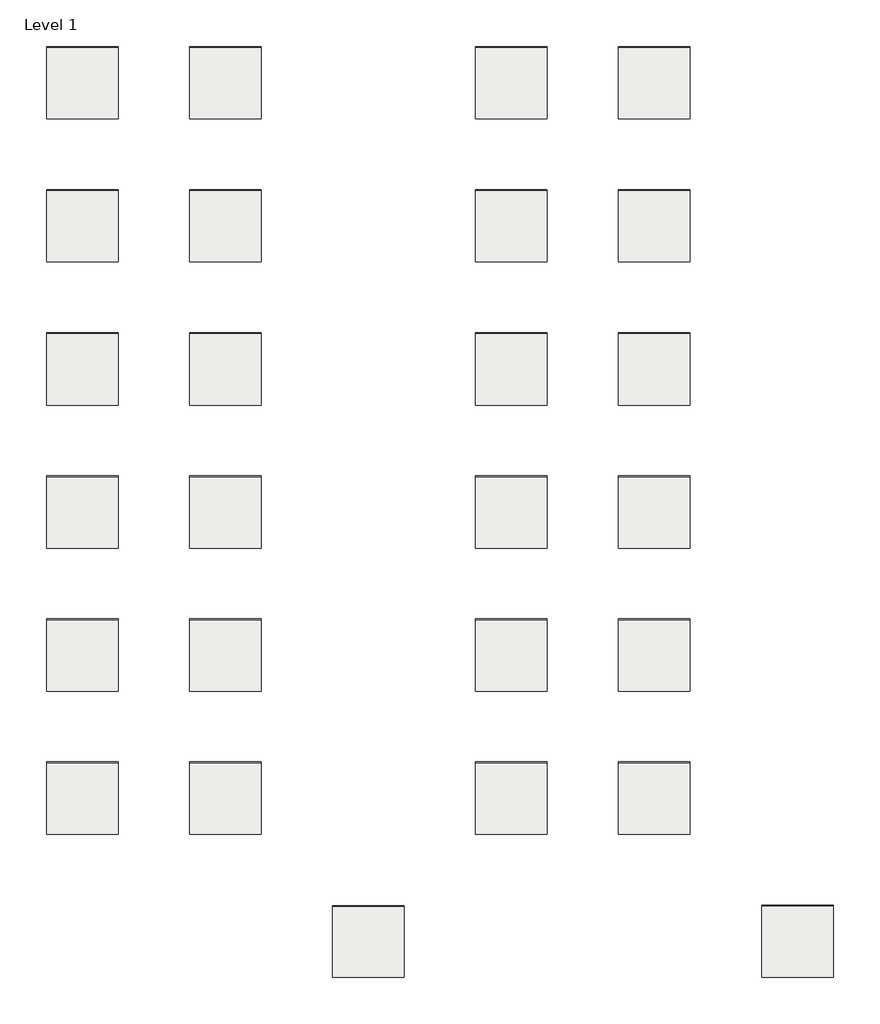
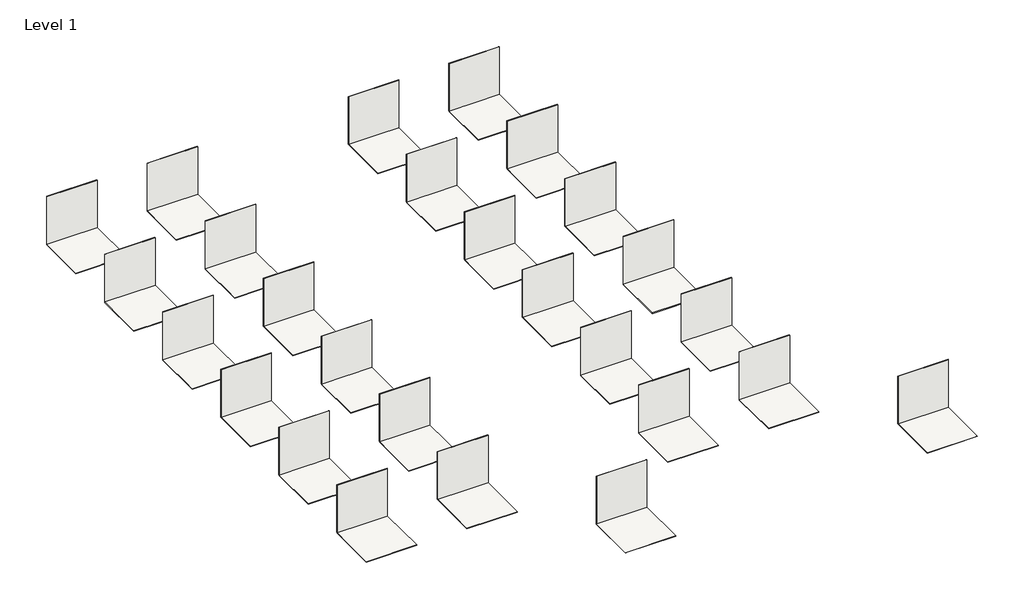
# One storey: 52 coverings.
"""IFC4 building model written with IfcOpenShell, lengths in millimetres."""

from ifc_helpers import new_model, si_unit, frame, origin, origin_with_axes, place, context, project, spatial, polyline, outline, extrude, element, save

model = new_model("IFC4")

# Units and contexts
model_context = context("Model", 3, world=origin())
ifc_project = project(units=[si_unit("LENGTHUNIT", "METRE", prefix="MILLI")], contexts=[model_context])

# Site, building, storey
site = spatial("IfcSite", under=ifc_project)
building = spatial("IfcBuilding", under=site)
storey = spatial("IfcBuildingStorey", under=building, Name="Level 1", Elevation=0.0)

# Coverings
placement = place(None, origin())
element("IfcCovering", 1, ObjectType="REVIGRÉS-RULE-BASE-19,6x118,6-SILK-ALLOY", at=placement, inside=storey, context=model_context, shape_type="SweptSolid", body=[
    extrude(outline(polyline([(1105.3469355, 19020.3776243), (105.3469355, 19020.3776243), (105.3469355, 19030.8776243), (1105.3469355, 19030.8776243), (1105.3469355, 19020.3776243)])), origin_with_axes(), (0.0, 0.0, 1.0), 1000.0),
])
element("IfcCovering", 2, ObjectType="REVIGRÉS-RULE-BASE-19,6x118,6-SILK-ALLOY", at=placement, inside=storey, context=model_context, shape_type="SweptSolid", body=[
    extrude(outline(polyline([(1105.3469355, 18020.3776243), (105.3469355, 18020.3776243), (105.3469355, 19020.3776243), (1105.3469355, 19020.3776243), (1105.3469355, 18020.3776243)])), frame((0.0, 0.0, -10.5), z_axis=(0.0, 0.0, 1.0), x_axis=(1.0, 0.0, 0.0)), (0.0, 0.0, 1.0), 10.5),
])
element("IfcCovering", 3, ObjectType="REVIGRÉS-RULE-BASE-19,6x118,6-SILK-SMOG", at=placement, inside=storey, context=model_context, shape_type="SweptSolid", body=[
    extrude(outline(polyline([(7105.3469355, 19020.3776243), (6105.3469355, 19020.3776243), (6105.3469355, 19030.8776243), (7105.3469355, 19030.8776243), (7105.3469355, 19020.3776243)])), origin_with_axes(), (0.0, 0.0, 1.0), 1000.0),
])
element("IfcCovering", 4, ObjectType="REVIGRÉS-RULE-BASE-19,6x118,6-SILK-SMOG", at=placement, inside=storey, context=model_context, shape_type="SweptSolid", body=[
    extrude(outline(polyline([(7105.3469355, 18020.3776243), (6105.3469355, 18020.3776243), (6105.3469355, 19020.3776243), (7105.3469355, 19020.3776243), (7105.3469355, 18020.3776243)])), frame((0.0, 0.0, -10.5), z_axis=(0.0, 0.0, 1.0), x_axis=(1.0, 0.0, 0.0)), (0.0, 0.0, 1.0), 10.5),
])
element("IfcCovering", 5, ObjectType="REVIGRÉS-RULE-BASE-19,6x118,6-SOFT GRIP-ALLOY", at=placement, inside=storey, context=model_context, shape_type="SweptSolid", body=[
    extrude(outline(polyline([(3105.3469355, 19020.3776243), (2105.3469355, 19020.3776243), (2105.3469355, 19030.8776243), (3105.3469355, 19030.8776243), (3105.3469355, 19020.3776243)])), origin_with_axes(), (0.0, 0.0, 1.0), 1000.0),
])
element("IfcCovering", 6, ObjectType="REVIGRÉS-RULE-BASE-19,6x118,6-SOFT GRIP-ALLOY", at=placement, inside=storey, context=model_context, shape_type="SweptSolid", body=[
    extrude(outline(polyline([(3105.3469355, 18020.3776243), (2105.3469355, 18020.3776243), (2105.3469355, 19020.3776243), (3105.3469355, 19020.3776243), (3105.3469355, 18020.3776243)])), frame((0.0, 0.0, -10.5), z_axis=(0.0, 0.0, 1.0), x_axis=(1.0, 0.0, 0.0)), (0.0, 0.0, 1.0), 10.5),
])
element("IfcCovering", 7, ObjectType="REVIGRÉS-RULE-BASE-19,6x118,6-SOFT GRIP-SMOG", at=placement, inside=storey, context=model_context, shape_type="SweptSolid", body=[
    extrude(outline(polyline([(9105.3469355, 19020.3776243), (8105.3469355, 19020.3776243), (8105.3469355, 19030.8776243), (9105.3469355, 19030.8776243), (9105.3469355, 19020.3776243)])), origin_with_axes(), (0.0, 0.0, 1.0), 1000.0),
])
element("IfcCovering", 8, ObjectType="REVIGRÉS-RULE-BASE-19,6x118,6-SOFT GRIP-SMOG", at=placement, inside=storey, context=model_context, shape_type="SweptSolid", body=[
    extrude(outline(polyline([(9105.3469355, 18020.3776243), (8105.3469355, 18020.3776243), (8105.3469355, 19020.3776243), (9105.3469355, 19020.3776243), (9105.3469355, 18020.3776243)])), frame((0.0, 0.0, -10.5), z_axis=(0.0, 0.0, 1.0), x_axis=(1.0, 0.0, 0.0)), (0.0, 0.0, 1.0), 10.5),
])
element("IfcCovering", 9, ObjectType="REVIGRÉS-RULE-BASE-19,6x178-SILK-ALLOY", at=placement, inside=storey, context=model_context, shape_type="SweptSolid", body=[
    extrude(outline(polyline([(1105.3469355, 17020.3776243), (105.3469355, 17020.3776243), (105.3469355, 17031.5776243), (1105.3469355, 17031.5776243), (1105.3469355, 17020.3776243)])), origin_with_axes(), (0.0, 0.0, 1.0), 1000.0),
])
element("IfcCovering", 10, ObjectType="REVIGRÉS-RULE-BASE-19,6x178-SILK-ALLOY", at=placement, inside=storey, context=model_context, shape_type="SweptSolid", body=[
    extrude(outline(polyline([(1105.3469355, 16020.3776243), (105.3469355, 16020.3776243), (105.3469355, 17020.3776243), (1105.3469355, 17020.3776243), (1105.3469355, 16020.3776243)])), frame((0.0, 0.0, -11.2), z_axis=(0.0, 0.0, 1.0), x_axis=(1.0, 0.0, 0.0)), (0.0, 0.0, 1.0), 11.2),
])
element("IfcCovering", 11, ObjectType="REVIGRÉS-RULE-BASE-19,6x178-SILK-SMOG", at=placement, inside=storey, context=model_context, shape_type="SweptSolid", body=[
    extrude(outline(polyline([(7105.3469355, 17020.3776243), (6105.3469355, 17020.3776243), (6105.3469355, 17031.5776243), (7105.3469355, 17031.5776243), (7105.3469355, 17020.3776243)])), origin_with_axes(), (0.0, 0.0, 1.0), 1000.0),
])
element("IfcCovering", 12, ObjectType="REVIGRÉS-RULE-BASE-19,6x178-SILK-SMOG", at=placement, inside=storey, context=model_context, shape_type="SweptSolid", body=[
    extrude(outline(polyline([(7105.3469355, 16020.3776243), (6105.3469355, 16020.3776243), (6105.3469355, 17020.3776243), (7105.3469355, 17020.3776243), (7105.3469355, 16020.3776243)])), frame((0.0, 0.0, -11.2), z_axis=(0.0, 0.0, 1.0), x_axis=(1.0, 0.0, 0.0)), (0.0, 0.0, 1.0), 11.2),
])
element("IfcCovering", 13, ObjectType="REVIGRÉS-RULE-BASE-19,6x178-SOFT GRIP-ALLOY", at=placement, inside=storey, context=model_context, shape_type="SweptSolid", body=[
    extrude(outline(polyline([(3105.3469355, 17020.3776243), (2105.3469355, 17020.3776243), (2105.3469355, 17031.5776243), (3105.3469355, 17031.5776243), (3105.3469355, 17020.3776243)])), origin_with_axes(), (0.0, 0.0, 1.0), 1000.0),
])
element("IfcCovering", 14, ObjectType="REVIGRÉS-RULE-BASE-19,6x178-SOFT GRIP-ALLOY", at=placement, inside=storey, context=model_context, shape_type="SweptSolid", body=[
    extrude(outline(polyline([(3105.3469355, 16020.3776243), (2105.3469355, 16020.3776243), (2105.3469355, 17020.3776243), (3105.3469355, 17020.3776243), (3105.3469355, 16020.3776243)])), frame((0.0, 0.0, -11.2), z_axis=(0.0, 0.0, 1.0), x_axis=(1.0, 0.0, 0.0)), (0.0, 0.0, 1.0), 11.2),
])
element("IfcCovering", 15, ObjectType="REVIGRÉS-RULE-BASE-19,6x178-SOFT GRIP-SMOG", at=placement, inside=storey, context=model_context, shape_type="SweptSolid", body=[
    extrude(outline(polyline([(9105.3469355, 17020.3776243), (8105.3469355, 17020.3776243), (8105.3469355, 17031.5776243), (9105.3469355, 17031.5776243), (9105.3469355, 17020.3776243)])), origin_with_axes(), (0.0, 0.0, 1.0), 1000.0),
])
element("IfcCovering", 16, ObjectType="REVIGRÉS-RULE-BASE-19,6x178-SOFT GRIP-SMOG", at=placement, inside=storey, context=model_context, shape_type="SweptSolid", body=[
    extrude(outline(polyline([(9105.3469355, 16020.3776243), (8105.3469355, 16020.3776243), (8105.3469355, 17020.3776243), (9105.3469355, 17020.3776243), (9105.3469355, 16020.3776243)])), frame((0.0, 0.0, -11.2), z_axis=(0.0, 0.0, 1.0), x_axis=(1.0, 0.0, 0.0)), (0.0, 0.0, 1.0), 11.2),
])
element("IfcCovering", 17, ObjectType="REVIGRÉS-RULE-BASE-29,5x118,6-SILK-ALLOY", at=placement, inside=storey, context=model_context, shape_type="SweptSolid", body=[
    extrude(outline(polyline([(1105.3469355, 15020.3776243), (105.3469355, 15020.3776243), (105.3469355, 15030.8776243), (1105.3469355, 15030.8776243), (1105.3469355, 15020.3776243)])), origin_with_axes(), (0.0, 0.0, 1.0), 1000.0),
])
element("IfcCovering", 18, ObjectType="REVIGRÉS-RULE-BASE-29,5x118,6-SILK-ALLOY", at=placement, inside=storey, context=model_context, shape_type="SweptSolid", body=[
    extrude(outline(polyline([(1105.3469355, 14020.3776243), (105.3469355, 14020.3776243), (105.3469355, 15020.3776243), (1105.3469355, 15020.3776243), (1105.3469355, 14020.3776243)])), frame((0.0, 0.0, -10.5), z_axis=(0.0, 0.0, 1.0), x_axis=(1.0, 0.0, 0.0)), (0.0, 0.0, 1.0), 10.5),
])
element("IfcCovering", 19, ObjectType="REVIGRÉS-RULE-BASE-29,5x118,6-SOFT GRIP-ALLOY", at=placement, inside=storey, context=model_context, shape_type="SweptSolid", body=[
    extrude(outline(polyline([(3105.3469355, 15020.3776243), (2105.3469355, 15020.3776243), (2105.3469355, 15030.8776243), (3105.3469355, 15030.8776243), (3105.3469355, 15020.3776243)])), origin_with_axes(), (0.0, 0.0, 1.0), 1000.0),
])
element("IfcCovering", 20, ObjectType="REVIGRÉS-RULE-BASE-29,5x118,6-SOFT GRIP-ALLOY", at=placement, inside=storey, context=model_context, shape_type="SweptSolid", body=[
    extrude(outline(polyline([(3105.3469355, 14020.3776243), (2105.3469355, 14020.3776243), (2105.3469355, 15020.3776243), (3105.3469355, 15020.3776243), (3105.3469355, 14020.3776243)])), frame((0.0, 0.0, -10.5), z_axis=(0.0, 0.0, 1.0), x_axis=(1.0, 0.0, 0.0)), (0.0, 0.0, 1.0), 10.5),
])
element("IfcCovering", 21, ObjectType="REVIGRÉS-RULE-BASE-29,5x178-SILK-ALLOY", at=placement, inside=storey, context=model_context, shape_type="SweptSolid", body=[
    extrude(outline(polyline([(1105.3469355, 13020.3776243), (105.3469355, 13020.3776243), (105.3469355, 13031.5776243), (1105.3469355, 13031.5776243), (1105.3469355, 13020.3776243)])), origin_with_axes(), (0.0, 0.0, 1.0), 1000.0),
])
element("IfcCovering", 22, ObjectType="REVIGRÉS-RULE-BASE-29,5x178-SILK-ALLOY", at=placement, inside=storey, context=model_context, shape_type="SweptSolid", body=[
    extrude(outline(polyline([(1105.3469355, 12020.3776243), (105.3469355, 12020.3776243), (105.3469355, 13020.3776243), (1105.3469355, 13020.3776243), (1105.3469355, 12020.3776243)])), frame((0.0, 0.0, -11.2), z_axis=(0.0, 0.0, 1.0), x_axis=(1.0, 0.0, 0.0)), (0.0, 0.0, 1.0), 11.2),
])
element("IfcCovering", 23, ObjectType="REVIGRÉS-RULE-BASE-29,5x178-SOFT GRIP-ALLOY", at=placement, inside=storey, context=model_context, shape_type="SweptSolid", body=[
    extrude(outline(polyline([(3105.3469355, 13020.3776243), (2105.3469355, 13020.3776243), (2105.3469355, 13031.5776243), (3105.3469355, 13031.5776243), (3105.3469355, 13020.3776243)])), origin_with_axes(), (0.0, 0.0, 1.0), 1000.0),
])
element("IfcCovering", 24, ObjectType="REVIGRÉS-RULE-BASE-29,5x178-SOFT GRIP-ALLOY", at=placement, inside=storey, context=model_context, shape_type="SweptSolid", body=[
    extrude(outline(polyline([(3105.3469355, 12020.3776243), (2105.3469355, 12020.3776243), (2105.3469355, 13020.3776243), (3105.3469355, 13020.3776243), (3105.3469355, 12020.3776243)])), frame((0.0, 0.0, -11.2), z_axis=(0.0, 0.0, 1.0), x_axis=(1.0, 0.0, 0.0)), (0.0, 0.0, 1.0), 11.2),
])
element("IfcCovering", 25, ObjectType="REVIGRÉS-RULE-BASE-59,2x118,6-SILK-ALLOY", at=placement, inside=storey, context=model_context, shape_type="SweptSolid", body=[
    extrude(outline(polyline([(1105.3469355, 11020.3776243), (105.3469355, 11020.3776243), (105.3469355, 11030.8776243), (1105.3469355, 11030.8776243), (1105.3469355, 11020.3776243)])), origin_with_axes(), (0.0, 0.0, 1.0), 1000.0),
])
element("IfcCovering", 26, ObjectType="REVIGRÉS-RULE-BASE-59,2x118,6-SILK-ALLOY", at=placement, inside=storey, context=model_context, shape_type="SweptSolid", body=[
    extrude(outline(polyline([(1105.3469355, 10020.3776243), (105.3469355, 10020.3776243), (105.3469355, 11020.3776243), (1105.3469355, 11020.3776243), (1105.3469355, 10020.3776243)])), frame((0.0, 0.0, -10.5), z_axis=(0.0, 0.0, 1.0), x_axis=(1.0, 0.0, 0.0)), (0.0, 0.0, 1.0), 10.5),
])
element("IfcCovering", 27, ObjectType="REVIGRÉS-RULE-BASE-59,2x118,6-SOFT GRIP-ALLOY", at=placement, inside=storey, context=model_context, shape_type="SweptSolid", body=[
    extrude(outline(polyline([(3105.3469355, 11020.3776243), (2105.3469355, 11020.3776243), (2105.3469355, 11030.8776243), (3105.3469355, 11030.8776243), (3105.3469355, 11020.3776243)])), origin_with_axes(), (0.0, 0.0, 1.0), 1000.0),
])
element("IfcCovering", 28, ObjectType="REVIGRÉS-RULE-BASE-59,2x118,6-SOFT GRIP-ALLOY", at=placement, inside=storey, context=model_context, shape_type="SweptSolid", body=[
    extrude(outline(polyline([(3105.3469355, 10020.3776243), (2105.3469355, 10020.3776243), (2105.3469355, 11020.3776243), (3105.3469355, 11020.3776243), (3105.3469355, 10020.3776243)])), frame((0.0, 0.0, -10.5), z_axis=(0.0, 0.0, 1.0), x_axis=(1.0, 0.0, 0.0)), (0.0, 0.0, 1.0), 10.5),
])
element("IfcCovering", 29, ObjectType="REVIGRÉS-RULE-BASE-59,2x178-SILK-ALLOY", at=placement, inside=storey, context=model_context, shape_type="SweptSolid", body=[
    extrude(outline(polyline([(1105.3469355, 9020.3776243), (105.3469355, 9020.3776243), (105.3469355, 9031.5776243), (1105.3469355, 9031.5776243), (1105.3469355, 9020.3776243)])), origin_with_axes(), (0.0, 0.0, 1.0), 1000.0),
])
element("IfcCovering", 30, ObjectType="REVIGRÉS-RULE-BASE-59,2x178-SILK-ALLOY", at=placement, inside=storey, context=model_context, shape_type="SweptSolid", body=[
    extrude(outline(polyline([(1105.3469355, 8020.3776243), (105.3469355, 8020.3776243), (105.3469355, 9020.3776243), (1105.3469355, 9020.3776243), (1105.3469355, 8020.3776243)])), frame((0.0, 0.0, -11.2), z_axis=(0.0, 0.0, 1.0), x_axis=(1.0, 0.0, 0.0)), (0.0, 0.0, 1.0), 11.2),
])
element("IfcCovering", 31, ObjectType="REVIGRÉS-RULE-BASE-59,2x178-SOFT GRIP-ALLOY", at=placement, inside=storey, context=model_context, shape_type="SweptSolid", body=[
    extrude(outline(polyline([(3105.3469355, 9020.3776243), (2105.3469355, 9020.3776243), (2105.3469355, 9031.5776243), (3105.3469355, 9031.5776243), (3105.3469355, 9020.3776243)])), origin_with_axes(), (0.0, 0.0, 1.0), 1000.0),
])
element("IfcCovering", 32, ObjectType="REVIGRÉS-RULE-BASE-59,2x178-SOFT GRIP-ALLOY", at=placement, inside=storey, context=model_context, shape_type="SweptSolid", body=[
    extrude(outline(polyline([(3105.3469355, 8020.3776243), (2105.3469355, 8020.3776243), (2105.3469355, 9020.3776243), (3105.3469355, 9020.3776243), (3105.3469355, 8020.3776243)])), frame((0.0, 0.0, -11.2), z_axis=(0.0, 0.0, 1.0), x_axis=(1.0, 0.0, 0.0)), (0.0, 0.0, 1.0), 11.2),
])
element("IfcCovering", 33, ObjectType="REVIGRÉS-RULE-BASE-29,5x118,6-SILK-SMOG", at=placement, inside=storey, context=model_context, shape_type="SweptSolid", body=[
    extrude(outline(polyline([(7105.3469355, 15020.3776243), (6105.3469355, 15020.3776243), (6105.3469355, 15030.8776243), (7105.3469355, 15030.8776243), (7105.3469355, 15020.3776243)])), origin_with_axes(), (0.0, 0.0, 1.0), 1000.0),
])
element("IfcCovering", 34, ObjectType="REVIGRÉS-RULE-BASE-29,5x118,6-SILK-SMOG", at=placement, inside=storey, context=model_context, shape_type="SweptSolid", body=[
    extrude(outline(polyline([(7105.3469355, 14020.3776243), (6105.3469355, 14020.3776243), (6105.3469355, 15020.3776243), (7105.3469355, 15020.3776243), (7105.3469355, 14020.3776243)])), frame((0.0, 0.0, -10.5), z_axis=(0.0, 0.0, 1.0), x_axis=(1.0, 0.0, 0.0)), (0.0, 0.0, 1.0), 10.5),
])
element("IfcCovering", 35, ObjectType="REVIGRÉS-RULE-BASE-29,5x118,6-SOFT GRIP-SMOG", at=placement, inside=storey, context=model_context, shape_type="SweptSolid", body=[
    extrude(outline(polyline([(9105.3469355, 15020.3776243), (8105.3469355, 15020.3776243), (8105.3469355, 15030.8776243), (9105.3469355, 15030.8776243), (9105.3469355, 15020.3776243)])), origin_with_axes(), (0.0, 0.0, 1.0), 1000.0),
])
element("IfcCovering", 36, ObjectType="REVIGRÉS-RULE-BASE-29,5x118,6-SOFT GRIP-SMOG", at=placement, inside=storey, context=model_context, shape_type="SweptSolid", body=[
    extrude(outline(polyline([(9105.3469355, 14020.3776243), (8105.3469355, 14020.3776243), (8105.3469355, 15020.3776243), (9105.3469355, 15020.3776243), (9105.3469355, 14020.3776243)])), frame((0.0, 0.0, -10.5), z_axis=(0.0, 0.0, 1.0), x_axis=(1.0, 0.0, 0.0)), (0.0, 0.0, 1.0), 10.5),
])
element("IfcCovering", 37, ObjectType="REVIGRÉS-RULE-BASE-29,5x178-SILK-SMOG", at=placement, inside=storey, context=model_context, shape_type="SweptSolid", body=[
    extrude(outline(polyline([(7105.3469355, 13020.3776243), (6105.3469355, 13020.3776243), (6105.3469355, 13031.5776243), (7105.3469355, 13031.5776243), (7105.3469355, 13020.3776243)])), origin_with_axes(), (0.0, 0.0, 1.0), 1000.0),
])
element("IfcCovering", 38, ObjectType="REVIGRÉS-RULE-BASE-29,5x178-SILK-SMOG", at=placement, inside=storey, context=model_context, shape_type="SweptSolid", body=[
    extrude(outline(polyline([(7105.3469355, 12020.3776243), (6105.3469355, 12020.3776243), (6105.3469355, 13020.3776243), (7105.3469355, 13020.3776243), (7105.3469355, 12020.3776243)])), frame((0.0, 0.0, -11.2), z_axis=(0.0, 0.0, 1.0), x_axis=(1.0, 0.0, 0.0)), (0.0, 0.0, 1.0), 11.2),
])
element("IfcCovering", 39, ObjectType="REVIGRÉS-RULE-BASE-29,5x178-SOFT GRIP-SMOG", at=placement, inside=storey, context=model_context, shape_type="SweptSolid", body=[
    extrude(outline(polyline([(9105.3469355, 13020.3776243), (8105.3469355, 13020.3776243), (8105.3469355, 13031.5776243), (9105.3469355, 13031.5776243), (9105.3469355, 13020.3776243)])), origin_with_axes(), (0.0, 0.0, 1.0), 1000.0),
])
element("IfcCovering", 40, ObjectType="REVIGRÉS-RULE-BASE-29,5x178-SOFT GRIP-SMOG", at=placement, inside=storey, context=model_context, shape_type="SweptSolid", body=[
    extrude(outline(polyline([(9105.3469355, 12020.3776243), (8105.3469355, 12020.3776243), (8105.3469355, 13020.3776243), (9105.3469355, 13020.3776243), (9105.3469355, 12020.3776243)])), frame((0.0, 0.0, -11.2), z_axis=(0.0, 0.0, 1.0), x_axis=(1.0, 0.0, 0.0)), (0.0, 0.0, 1.0), 11.2),
])
element("IfcCovering", 41, ObjectType="REVIGRÉS-RULE-BASE-59,2x118,6-SILK-SMOG", at=placement, inside=storey, context=model_context, shape_type="SweptSolid", body=[
    extrude(outline(polyline([(7105.3469355, 11020.3776243), (6105.3469355, 11020.3776243), (6105.3469355, 11030.8776243), (7105.3469355, 11030.8776243), (7105.3469355, 11020.3776243)])), origin_with_axes(), (0.0, 0.0, 1.0), 1000.0),
])
element("IfcCovering", 42, ObjectType="REVIGRÉS-RULE-BASE-59,2x118,6-SILK-SMOG", at=placement, inside=storey, context=model_context, shape_type="SweptSolid", body=[
    extrude(outline(polyline([(7105.3469355, 10020.3776243), (6105.3469355, 10020.3776243), (6105.3469355, 11020.3776243), (7105.3469355, 11020.3776243), (7105.3469355, 10020.3776243)])), frame((0.0, 0.0, -10.5), z_axis=(0.0, 0.0, 1.0), x_axis=(1.0, 0.0, 0.0)), (0.0, 0.0, 1.0), 10.5),
])
element("IfcCovering", 43, ObjectType="REVIGRÉS-RULE-BASE-59,2x118,6-SOFT GRIP-SMOG", at=placement, inside=storey, context=model_context, shape_type="SweptSolid", body=[
    extrude(outline(polyline([(9105.3469355, 11020.3776243), (8105.3469355, 11020.3776243), (8105.3469355, 11030.8776243), (9105.3469355, 11030.8776243), (9105.3469355, 11020.3776243)])), origin_with_axes(), (0.0, 0.0, 1.0), 1000.0),
])
element("IfcCovering", 44, ObjectType="REVIGRÉS-RULE-BASE-59,2x118,6-SOFT GRIP-SMOG", at=placement, inside=storey, context=model_context, shape_type="SweptSolid", body=[
    extrude(outline(polyline([(9105.3469355, 10020.3776243), (8105.3469355, 10020.3776243), (8105.3469355, 11020.3776243), (9105.3469355, 11020.3776243), (9105.3469355, 10020.3776243)])), frame((0.0, 0.0, -10.5), z_axis=(0.0, 0.0, 1.0), x_axis=(1.0, 0.0, 0.0)), (0.0, 0.0, 1.0), 10.5),
])
element("IfcCovering", 45, ObjectType="REVIGRÉS-RULE-BASE-59,2x178-SILK-SMOG", at=placement, inside=storey, context=model_context, shape_type="SweptSolid", body=[
    extrude(outline(polyline([(7105.3469355, 9020.3776243), (6105.3469355, 9020.3776243), (6105.3469355, 9031.5776243), (7105.3469355, 9031.5776243), (7105.3469355, 9020.3776243)])), origin_with_axes(), (0.0, 0.0, 1.0), 1000.0),
])
element("IfcCovering", 46, ObjectType="REVIGRÉS-RULE-BASE-59,2x178-SOFT GRIP-SMOG", at=placement, inside=storey, context=model_context, shape_type="SweptSolid", body=[
    extrude(outline(polyline([(9105.3469355, 9020.3776243), (8105.3469355, 9020.3776243), (8105.3469355, 9031.5776243), (9105.3469355, 9031.5776243), (9105.3469355, 9020.3776243)])), origin_with_axes(), (0.0, 0.0, 1.0), 1000.0),
])
element("IfcCovering", 47, ObjectType="REVIGRÉS-RULE-BASE-59,2x178-SOFT GRIP-SMOG", at=placement, inside=storey, context=model_context, shape_type="SweptSolid", body=[
    extrude(outline(polyline([(9105.3469355, 8020.3776243), (8105.3469355, 8020.3776243), (8105.3469355, 9020.3776243), (9105.3469355, 9020.3776243), (9105.3469355, 8020.3776243)])), frame((0.0, 0.0, -11.2), z_axis=(0.0, 0.0, 1.0), x_axis=(1.0, 0.0, 0.0)), (0.0, 0.0, 1.0), 11.2),
])
element("IfcCovering", 48, ObjectType="REVIGRÉS-RULE-BASE-119,8x277,8-RECT-ALLOY", at=placement, inside=storey, context=model_context, shape_type="SweptSolid", body=[
    extrude(outline(polyline([(5105.3469355, 7014.3776243), (4105.3469355, 7014.3776243), (4105.3469355, 7020.3776243), (5105.3469355, 7020.3776243), (5105.3469355, 7014.3776243)])), origin_with_axes(), (0.0, 0.0, 1.0), 1000.0),
])
element("IfcCovering", 49, ObjectType="REVIGRÉS-RULE-BASE-119,8x277,8-RECT-SMOG", at=placement, inside=storey, context=model_context, shape_type="SweptSolid", body=[
    extrude(outline(polyline([(11105.3469355, 7020.3776243), (10105.3469355, 7020.3776243), (10105.3469355, 7026.3776243), (11105.3469355, 7026.3776243), (11105.3469355, 7020.3776243)])), origin_with_axes(), (0.0, 0.0, 1.0), 1000.0),
])
element("IfcCovering", 50, ObjectType="REVIGRÉS-RULE-BASE-119,8x277,8-RECT-SMOG", at=placement, inside=storey, context=model_context, shape_type="SweptSolid", body=[
    extrude(outline(polyline([(11105.3469355, 6020.3776243), (10105.3469355, 6020.3776243), (10105.3469355, 7020.3776243), (11105.3469355, 7020.3776243), (11105.3469355, 6020.3776243)])), frame((0.0, 0.0, -6.0), z_axis=(0.0, 0.0, 1.0), x_axis=(1.0, 0.0, 0.0)), (0.0, 0.0, 1.0), 6.0),
])
element("IfcCovering", 51, ObjectType="REVIGRÉS-RULE-BASE-119,8x277,8-RECT-ALLOY", at=placement, inside=storey, context=model_context, shape_type="SweptSolid", body=[
    extrude(outline(polyline([(5105.3469355, 6020.3776243), (4105.3469355, 6020.3776243), (4105.3469355, 7020.3776243), (5105.3469355, 7020.3776243), (5105.3469355, 6020.3776243)])), frame((0.0, 0.0, -6.0), z_axis=(0.0, 0.0, 1.0), x_axis=(1.0, 0.0, 0.0)), (0.0, 0.0, 1.0), 6.0),
])
element("IfcCovering", 52, ObjectType="REVIGRÉS-RULE-BASE-59,2x178-SILK-SMOG", at=placement, inside=storey, context=model_context, shape_type="SweptSolid", body=[
    extrude(outline(polyline([(7105.3469355, 8020.3776243), (6105.3469355, 8020.3776243), (6105.3469355, 9020.3776243), (7105.3469355, 9020.3776243), (7105.3469355, 8020.3776243)])), frame((0.0, 0.0, -11.2), z_axis=(0.0, 0.0, 1.0), x_axis=(1.0, 0.0, 0.0)), (0.0, 0.0, 1.0), 11.2),
])

save(model, "model.ifc")
